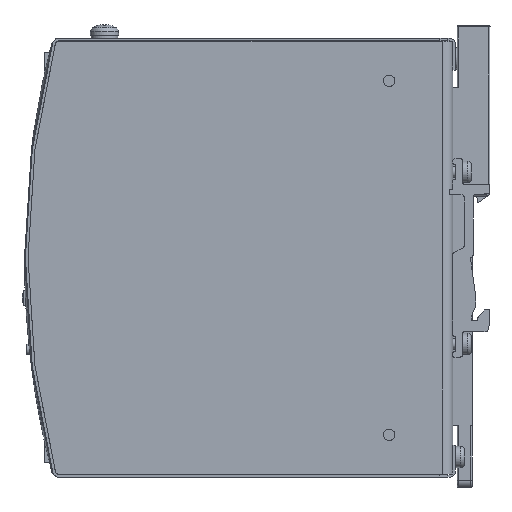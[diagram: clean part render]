
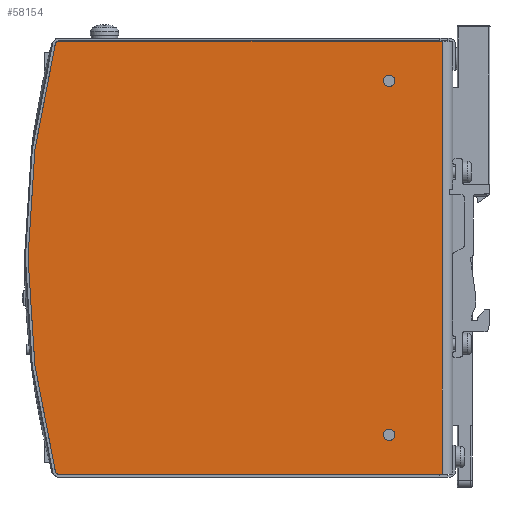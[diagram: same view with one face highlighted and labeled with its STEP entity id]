
A CAD part, left-side view. The second image highlights one B-rep face of the part: STEP entity #58154.
In plain terms, the highlighted planar face has unit normal (-1, 0, 0) as drawn and (0, -1, 0) by its records, which use the part's own axes.
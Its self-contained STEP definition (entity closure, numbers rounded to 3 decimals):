
#2313=FACE_BOUND('',#7463,.T.);
#2314=FACE_BOUND('',#7464,.T.);
#2991=CIRCLE('',#61765,1.6);
#2992=CIRCLE('',#61766,1.6);
#2994=CIRCLE('',#61769,1.6);
#2995=CIRCLE('',#61770,1.6);
#3002=CIRCLE('',#61781,1.);
#3005=CIRCLE('',#61785,240.);
#3008=CIRCLE('',#61791,1.);
#4350=FACE_OUTER_BOUND('',#7462,.T.);
#7462=EDGE_LOOP('',(#38702,#38703,#38704,#38705,#38706,#38707));
#7463=EDGE_LOOP('',(#38708,#38709));
#7464=EDGE_LOOP('',(#38710,#38711));
#11255=LINE('',#79868,#17757);
#11261=LINE('',#79893,#17763);
#11263=LINE('',#79898,#17765);
#17757=VECTOR('',#65703,10.);
#17763=VECTOR('',#65731,10.);
#17765=VECTOR('',#65737,10.);
#24240=VERTEX_POINT('',#79791);
#24241=VERTEX_POINT('',#79792);
#24243=VERTEX_POINT('',#79799);
#24244=VERTEX_POINT('',#79800);
#24255=VERTEX_POINT('',#79830);
#24256=VERTEX_POINT('',#79831);
#24260=VERTEX_POINT('',#79841);
#24265=VERTEX_POINT('',#79857);
#24268=VERTEX_POINT('',#79867);
#24276=VERTEX_POINT('',#79892);
#29990=EDGE_CURVE('',#24240,#24241,#2991,.T.);
#29991=EDGE_CURVE('',#24241,#24240,#2992,.T.);
#29994=EDGE_CURVE('',#24243,#24244,#2994,.T.);
#29995=EDGE_CURVE('',#24244,#24243,#2995,.T.);
#30009=EDGE_CURVE('',#24255,#24256,#3002,.T.);
#30015=EDGE_CURVE('',#24255,#24260,#3005,.T.);
#30022=EDGE_CURVE('',#24265,#24260,#3008,.T.);
#30027=EDGE_CURVE('',#24256,#24268,#11255,.T.);
#30040=EDGE_CURVE('',#24276,#24268,#11261,.T.);
#30043=EDGE_CURVE('',#24265,#24276,#11263,.T.);
#38702=ORIENTED_EDGE('',*,*,#30009,.F.);
#38703=ORIENTED_EDGE('',*,*,#30015,.T.);
#38704=ORIENTED_EDGE('',*,*,#30022,.F.);
#38705=ORIENTED_EDGE('',*,*,#30043,.T.);
#38706=ORIENTED_EDGE('',*,*,#30040,.T.);
#38707=ORIENTED_EDGE('',*,*,#30027,.F.);
#38708=ORIENTED_EDGE('',*,*,#29990,.T.);
#38709=ORIENTED_EDGE('',*,*,#29991,.T.);
#38710=ORIENTED_EDGE('',*,*,#29994,.T.);
#38711=ORIENTED_EDGE('',*,*,#29995,.T.);
#55850=PLANE('',#61806);
#58154=ADVANCED_FACE('',(#4350,#2313,#2314),#55850,.T.);
#61765=AXIS2_PLACEMENT_3D('',#79793,#65626,#65627);
#61766=AXIS2_PLACEMENT_3D('',#79794,#65628,#65629);
#61769=AXIS2_PLACEMENT_3D('',#79801,#65635,#65636);
#61770=AXIS2_PLACEMENT_3D('',#79802,#65637,#65638);
#61781=AXIS2_PLACEMENT_3D('',#79832,#65666,#65667);
#61785=AXIS2_PLACEMENT_3D('',#79843,#65677,#65678);
#61791=AXIS2_PLACEMENT_3D('',#79858,#65693,#65694);
#61806=AXIS2_PLACEMENT_3D('',#79897,#65735,#65736);
#65626=DIRECTION('center_axis',(0.,1.,0.));
#65627=DIRECTION('ref_axis',(1.,0.,0.));
#65628=DIRECTION('center_axis',(0.,1.,0.));
#65629=DIRECTION('ref_axis',(1.,0.,0.));
#65635=DIRECTION('center_axis',(0.,1.,0.));
#65636=DIRECTION('ref_axis',(1.,0.,0.));
#65637=DIRECTION('center_axis',(0.,1.,0.));
#65638=DIRECTION('ref_axis',(1.,0.,0.));
#65666=DIRECTION('center_axis',(0.,1.,0.));
#65667=DIRECTION('ref_axis',(0.612,0.,-0.791));
#65677=DIRECTION('center_axis',(0.,-1.,0.));
#65678=DIRECTION('ref_axis',(-0.967,0.,-0.255));
#65693=DIRECTION('center_axis',(0.,1.,0.));
#65694=DIRECTION('ref_axis',(0.612,0.,0.791));
#65703=DIRECTION('',(-1.,0.,0.));
#65731=DIRECTION('',(0.,0.,-1.));
#65735=DIRECTION('center_axis',(0.,-1.,0.));
#65736=DIRECTION('ref_axis',(0.,0.,-1.));
#65737=DIRECTION('',(-1.,0.,0.));
#79791=CARTESIAN_POINT('',(19.6,-24.,-50.));
#79792=CARTESIAN_POINT('',(16.4,-24.,-50.));
#79793=CARTESIAN_POINT('Origin',(18.,-24.,-50.));
#79794=CARTESIAN_POINT('Origin',(18.,-24.,-50.));
#79799=CARTESIAN_POINT('',(19.6,-24.,50.));
#79800=CARTESIAN_POINT('',(16.4,-24.,50.));
#79801=CARTESIAN_POINT('Origin',(18.,-24.,50.));
#79802=CARTESIAN_POINT('Origin',(18.,-24.,50.));
#79830=CARTESIAN_POINT('',(112.275,-24.,-60.402));
#79831=CARTESIAN_POINT('',(111.307,-24.,-61.15));
#79832=CARTESIAN_POINT('Origin',(111.307,-24.,-60.15));
#79841=CARTESIAN_POINT('',(112.275,-24.,60.402));
#79843=CARTESIAN_POINT('Origin',(-120.,-24.,0.));
#79857=CARTESIAN_POINT('',(111.307,-24.,61.15));
#79858=CARTESIAN_POINT('Origin',(111.307,-24.,60.15));
#79867=CARTESIAN_POINT('',(3.,-24.,-61.15));
#79868=CARTESIAN_POINT('',(130.,-24.,-61.15));
#79892=CARTESIAN_POINT('',(3.,-24.,61.15));
#79893=CARTESIAN_POINT('',(3.,-24.,-61.15));
#79897=CARTESIAN_POINT('Origin',(130.,-24.,-61.15));
#79898=CARTESIAN_POINT('',(130.,-24.,61.15));
